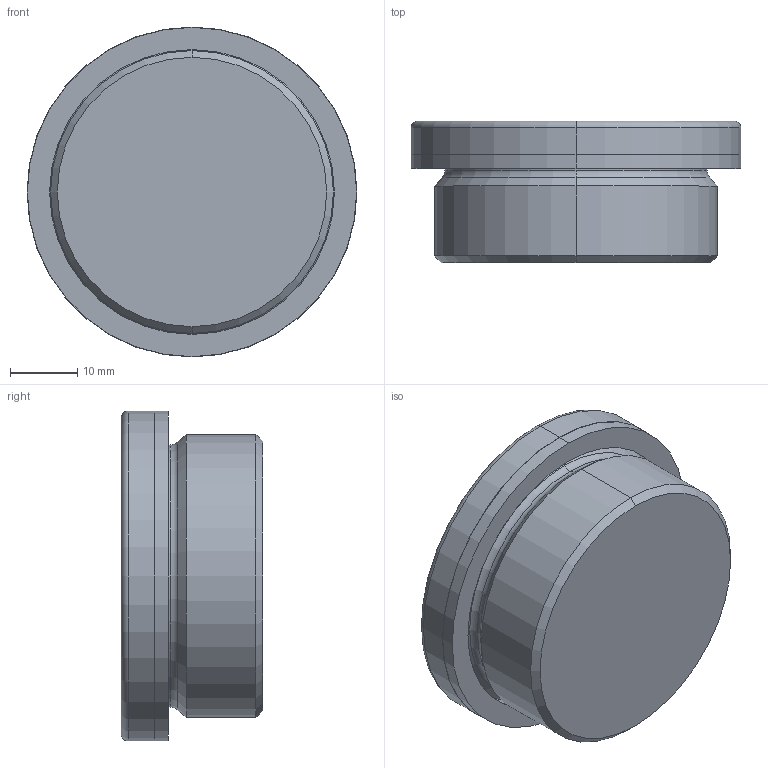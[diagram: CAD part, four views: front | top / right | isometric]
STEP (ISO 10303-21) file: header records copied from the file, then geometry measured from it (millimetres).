
FILE_DESCRIPTION (( 'STEP AP214' ), '1' );
FILE_NAME ('908-ST-M42x2-AN.step', '2024-12-19T09:19:22', ( '' ), ( '' ), 'SwSTEP 2.0', 'SolidWorks 2022', '' );
FILE_SCHEMA (( 'AUTOMOTIVE_DESIGN' ));
Length unit declared in the file: millimetre
Products named in the file (1): 908-ST-M42x2-AN
Bounding box: 49 x 21 x 49 mm (x, y, z)
Volume: 27504.5 mm3; surface area: 7978.4 mm2
Topology: 1 solids, 1 shells, 31 faces, 64 edges, 38 vertices
Faces by surface type: plane 11, cylinder 8, torus 6, cone 6
Entity records: 929 total; most frequent: DIRECTION 160, CARTESIAN_POINT 134, ORIENTED_EDGE 128, AXIS2_PLACEMENT_3D 64, EDGE_CURVE 64, VERTEX_POINT 38, EDGE_LOOP 34, VECTOR 32
